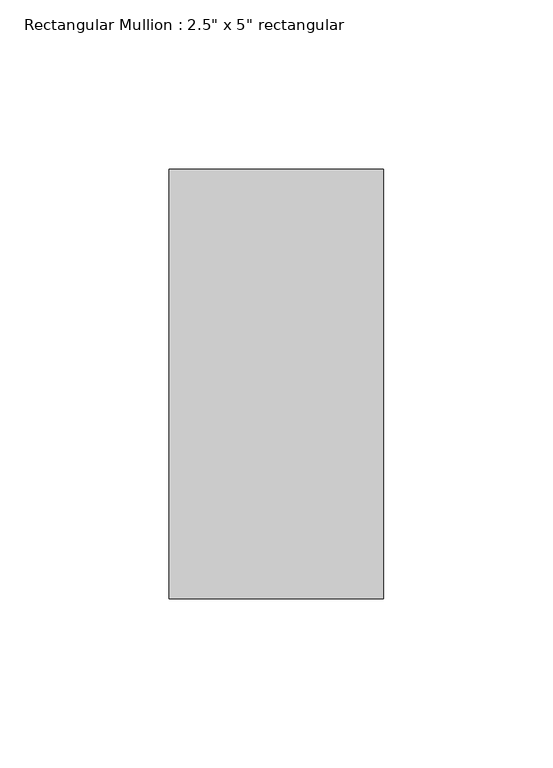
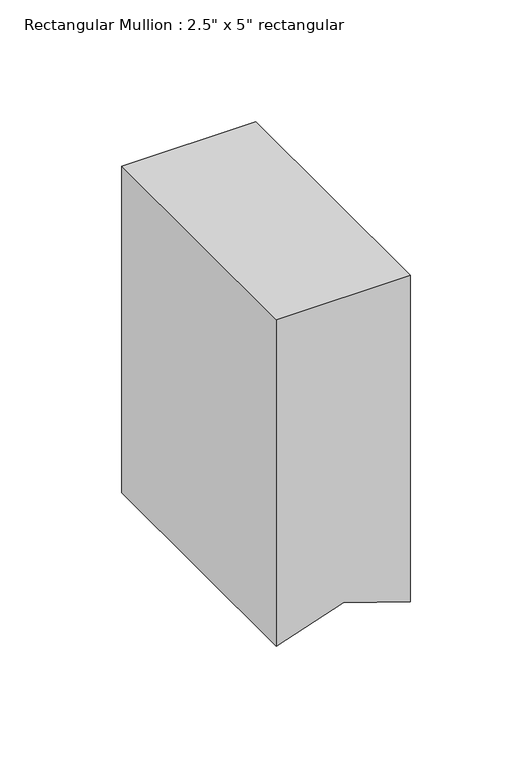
"""IFC4 building model written with IfcOpenShell, lengths in millimetres: member geometry."""

from ifc_helpers import new_model, si_unit, frame, origin, place, context, project, spatial, polyline, outline, extrude, source, transform, mapped, element, save


def member_f4359540(model_context):
    return source(origin(), model_context, "Body", "SweptSolid", [
        extrude(outline(polyline([(0.0, 31.75), (0.0, -31.75), (-163.7817895, -31.75), (-153.1984562, 0.0), (-163.7817895, 31.75), (0.0, 31.75)])), frame((0.0, -63.5, 0.0), z_axis=(0.0, 1.0, 0.0), x_axis=(0.0, 0.0, 1.0)), (0.0, 0.0, 1.0), 127.0),
    ])


if __name__ == "__main__":
    model = new_model("IFC4")
    model_context = context("Model", 3, world=origin())
    ifc_project = project(units=[si_unit("LENGTHUNIT", "METRE", prefix="MILLI")], contexts=[model_context])
    site = spatial("IfcSite", under=ifc_project)
    building = spatial("IfcBuilding", under=site)
    placement = place(None, origin())
    member_shape = member_f4359540(model_context)
    element("IfcMember", 1, ObjectType="Rectangular Mullion : 2.5\" x 5\" rectangular", at=placement, inside=building, context=model_context, shape_type="MappedRepresentation", body=[
        mapped(member_shape, transform((0.0, 0.0, 0.0), x_axis=(1.0, 0.0, 0.0), y_axis=(0.0, 1.0, 0.0), z_axis=(0.0, 0.0, 1.0))),
    ])
    save(model, "model.ifc")
